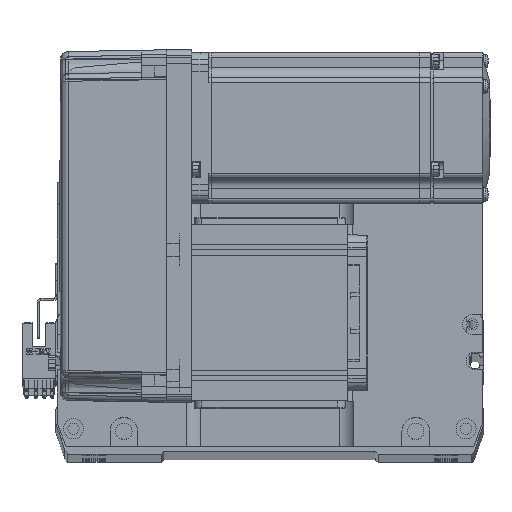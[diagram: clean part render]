
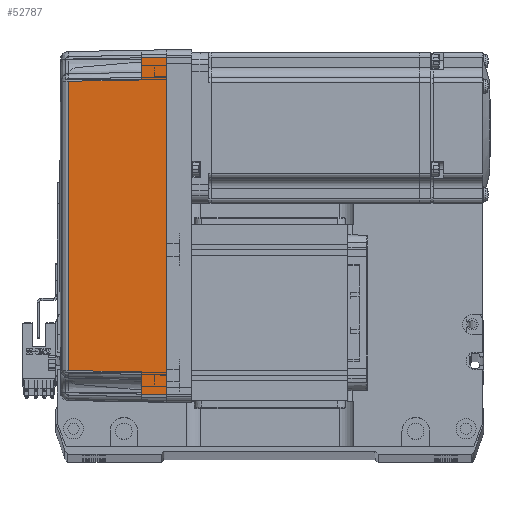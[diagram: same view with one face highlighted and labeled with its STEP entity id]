
A CAD part, top view. The second image highlights one B-rep face of the part: STEP entity #52787.
In plain terms, the highlighted planar face has unit normal (-0.018, 0, 1) as drawn and (0, 1, 0.017) by its records, which use the part's own axes.
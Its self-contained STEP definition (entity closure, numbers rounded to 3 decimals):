
#4496 = EDGE_CURVE ( 'NONE', #60478, #56452, #57137, .T. ) ;
#5068 = VECTOR ( 'NONE', #21857, 1000. ) ;
#7746 = CARTESIAN_POINT ( 'NONE',  ( 70., 36., 0. ) ) ;
#10399 = ORIENTED_EDGE ( 'NONE', *, *, #48816, .T. ) ;
#11823 = CARTESIAN_POINT ( 'NONE',  ( 57.495, 35.32, 38.985 ) ) ;
#13679 = LINE ( 'NONE', #57459, #20077 ) ;
#15510 = LINE ( 'NONE', #28961, #53849 ) ;
#15745 = CARTESIAN_POINT ( 'NONE',  ( 57.495, 35.32, 38.985 ) ) ;
#16192 = DIRECTION ( 'NONE',  ( 1., 0., 0. ) ) ;
#16875 = ORIENTED_EDGE ( 'NONE', *, *, #38100, .F. ) ;
#17530 = CARTESIAN_POINT ( 'NONE',  ( 67., 36., 0. ) ) ;
#19639 = ORIENTED_EDGE ( 'NONE', *, *, #4496, .T. ) ;
#19871 = CARTESIAN_POINT ( 'NONE',  ( 70., 35.825, 10. ) ) ;
#20077 = VECTOR ( 'NONE', #58145, 1000. ) ;
#20514 = DIRECTION ( 'NONE',  ( 1., 0., 0. ) ) ;
#21857 = DIRECTION ( 'NONE',  ( 1., 0., 0. ) ) ;
#22053 = DIRECTION ( 'NONE',  ( 0.017, 0.017, -1. ) ) ;
#22719 = DIRECTION ( 'NONE',  ( 0.017, -0.017, 1. ) ) ;
#22914 = PLANE ( 'NONE',  #38917 ) ;
#22928 = VERTEX_POINT ( 'NONE', #52540 ) ;
#23202 = CARTESIAN_POINT ( 'NONE',  ( -57.495, 35.32, 38.985 ) ) ;
#23888 = CARTESIAN_POINT ( 'NONE',  ( -19.165, 35.316, 39.181 ) ) ;
#24482 = LINE ( 'NONE', #41234, #61973 ) ;
#25749 = EDGE_LOOP ( 'NONE', ( #64940, #39932, #64717, #19639, #29113, #10399, #32837, #16875 ) ) ;
#26819 = VERTEX_POINT ( 'NONE', #17530 ) ;
#28010 = DIRECTION ( 'NONE',  ( 0., -0.017, 1. ) ) ;
#28961 = CARTESIAN_POINT ( 'NONE',  ( -67., 36., 0. ) ) ;
#29113 = ORIENTED_EDGE ( 'NONE', *, *, #56149, .T. ) ;
#32837 = ORIENTED_EDGE ( 'NONE', *, *, #48893, .F. ) ;
#34581 = CARTESIAN_POINT ( 'NONE',  ( 58., 35.825, 10. ) ) ;
#36603 = EDGE_CURVE ( 'NONE', #55513, #48152, #57746, .T. ) ;
#37571 = EDGE_CURVE ( 'NONE', #48152, #60478, #13679, .T. ) ;
#37999 = LINE ( 'NONE', #19871, #57986 ) ;
#38100 = EDGE_CURVE ( 'NONE', #50578, #26819, #60732, .T. ) ;
#38917 = AXIS2_PLACEMENT_3D ( 'NONE', #7746, #42744, #28010 ) ;
#39932 = ORIENTED_EDGE ( 'NONE', *, *, #36603, .T. ) ;
#40591 = EDGE_CURVE ( 'NONE', #50578, #55513, #15510, .T. ) ;
#41234 = CARTESIAN_POINT ( 'NONE',  ( 67.001, 36.001, -0.052 ) ) ;
#41562 = VECTOR ( 'NONE', #16192, 1000. ) ;
#41620 = CARTESIAN_POINT ( 'NONE',  ( 0., 36., 0. ) ) ;
#42744 = DIRECTION ( 'NONE',  ( 0., 1., 0.017 ) ) ;
#45577 = CARTESIAN_POINT ( 'NONE',  ( -66.826, 35.825, 10. ) ) ;
#47751 = LINE ( 'NONE', #11823, #62197 ) ;
#48152 = VERTEX_POINT ( 'NONE', #60546 ) ;
#48816 = EDGE_CURVE ( 'NONE', #58516, #22928, #37999, .T. ) ;
#48893 = EDGE_CURVE ( 'NONE', #26819, #22928, #24482, .T. ) ;
#50578 = VERTEX_POINT ( 'NONE', #52436 ) ;
#51530 = CARTESIAN_POINT ( 'NONE',  ( 70., 35.825, 10. ) ) ;
#52436 = CARTESIAN_POINT ( 'NONE',  ( -67., 36., 0. ) ) ;
#52540 = CARTESIAN_POINT ( 'NONE',  ( 66.826, 35.825, 10. ) ) ;
#52787 = ADVANCED_FACE ( 'NONE', ( #58261 ), #22914, .T. ) ;
#53849 = VECTOR ( 'NONE', #22719, 1000. ) ;
#55389 = CARTESIAN_POINT ( 'NONE',  ( -57.495, 35.32, 38.985 ) ) ;
#55513 = VERTEX_POINT ( 'NONE', #45577 ) ;
#56149 = EDGE_CURVE ( 'NONE', #56452, #58516, #47751, .T. ) ;
#56452 = VERTEX_POINT ( 'NONE', #15745 ) ;
#57137 = B_SPLINE_CURVE_WITH_KNOTS ( 'NONE', 3,
 ( #23202, #23888, #63999, #58906 ),
 .UNSPECIFIED., .F., .F.,
 ( 4, 4 ),
 ( 0., 1. ),
 .UNSPECIFIED. ) ;
#57459 = CARTESIAN_POINT ( 'NONE',  ( -58., 35.825, 10. ) ) ;
#57746 = LINE ( 'NONE', #51530, #5068 ) ;
#57986 = VECTOR ( 'NONE', #20514, 1000. ) ;
#58145 = DIRECTION ( 'NONE',  ( 0.017, -0.017, 1. ) ) ;
#58261 = FACE_OUTER_BOUND ( 'NONE', #25749, .T. ) ;
#58516 = VERTEX_POINT ( 'NONE', #34581 ) ;
#58906 = CARTESIAN_POINT ( 'NONE',  ( 57.495, 35.32, 38.985 ) ) ;
#60478 = VERTEX_POINT ( 'NONE', #55389 ) ;
#60546 = CARTESIAN_POINT ( 'NONE',  ( -58., 35.825, 10. ) ) ;
#60732 = LINE ( 'NONE', #41620, #41562 ) ;
#61973 = VECTOR ( 'NONE', #62206, 1000. ) ;
#62197 = VECTOR ( 'NONE', #22053, 1000. ) ;
#62206 = DIRECTION ( 'NONE',  ( -0.017, -0.017, 1. ) ) ;
#63999 = CARTESIAN_POINT ( 'NONE',  ( 19.165, 35.316, 39.181 ) ) ;
#64717 = ORIENTED_EDGE ( 'NONE', *, *, #37571, .T. ) ;
#64940 = ORIENTED_EDGE ( 'NONE', *, *, #40591, .T. ) ;
